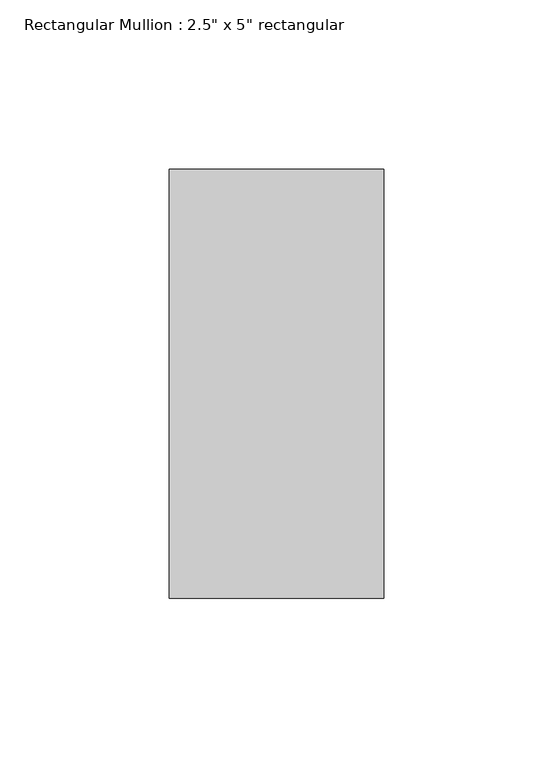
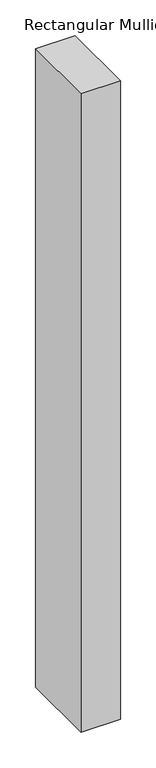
"""IFC4 building model written with IfcOpenShell, lengths in millimetres: member geometry."""

from ifc_helpers import new_model, si_unit, frame, origin, place, context, project, spatial, polyline, outline, extrude, source, transform, mapped, element, save


def member_088ef6b4(model_context):
    return source(origin(), model_context, "Body", "SweptSolid", [
        extrude(outline(polyline([(31.75, 63.5), (31.75, -63.5), (-31.75, -63.5), (-31.75, 63.5), (31.75, 63.5)])), frame((0.0, 0.0, -1088.3899999), z_axis=(0.0, 0.0, 1.0), x_axis=(1.0, 0.0, 0.0)), (0.0, 0.0, 1.0), 1088.3899999),
    ])


if __name__ == "__main__":
    model = new_model("IFC4")
    model_context = context("Model", 3, world=origin())
    ifc_project = project(units=[si_unit("LENGTHUNIT", "METRE", prefix="MILLI")], contexts=[model_context])
    site = spatial("IfcSite", under=ifc_project)
    building = spatial("IfcBuilding", under=site)
    placement = place(None, origin())
    member_shape = member_088ef6b4(model_context)
    element("IfcMember", 1, ObjectType="Rectangular Mullion : 2.5\" x 5\" rectangular", at=placement, inside=building, context=model_context, shape_type="MappedRepresentation", body=[
        mapped(member_shape, transform((0.0, 0.0, 0.0), x_axis=(1.0, 0.0, 0.0), y_axis=(0.0, 1.0, 0.0), z_axis=(0.0, 0.0, 1.0))),
    ])
    save(model, "model.ifc")
